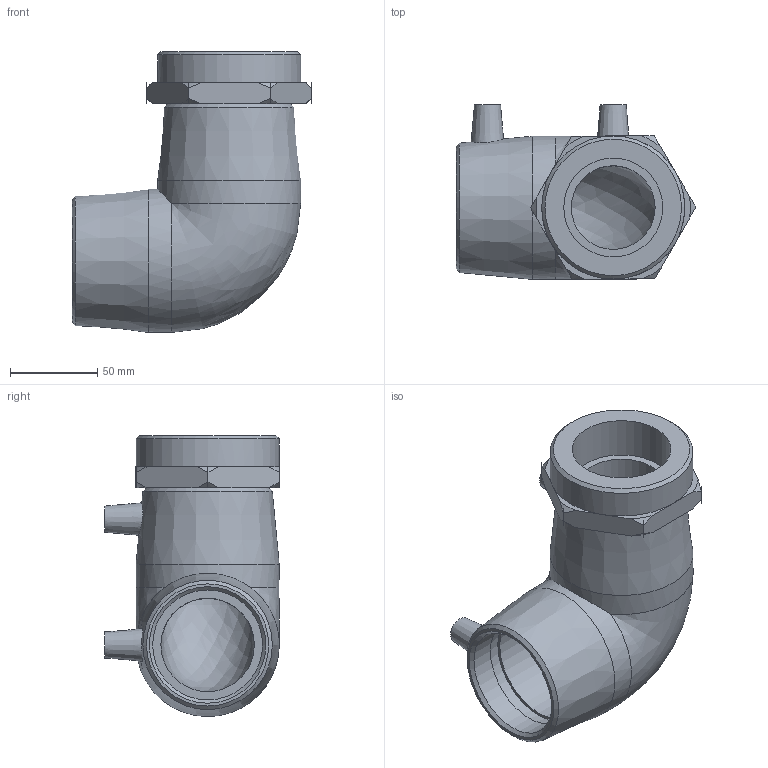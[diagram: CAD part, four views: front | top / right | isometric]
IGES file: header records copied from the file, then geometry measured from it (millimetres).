
Global section: file name: 493504063020.ipt; native system: Autodesk Inventor 2015; preprocessor: unknown; author: KIM; date: 20200202.123506; units: millimetre
Bounding box: 137.34 x 100.11 x 161 mm (x, y, z)
Volume: 533196.4 mm3; surface area: 99615.1 mm2
Topology: 1 solids, 2 shells, 88 faces, 227 edges, 150 vertices
Faces by surface type: plane 39, revolution 22, cone 19, cylinder 7, bspline 1
Full cylindrical faces by diameter (mm): 4 x2, 63 x2, 82 x3
